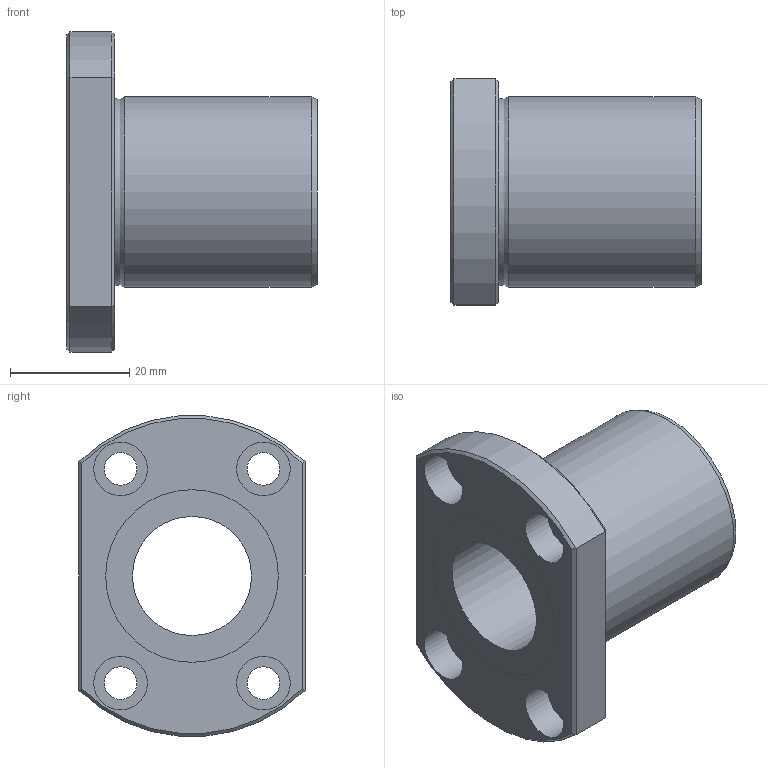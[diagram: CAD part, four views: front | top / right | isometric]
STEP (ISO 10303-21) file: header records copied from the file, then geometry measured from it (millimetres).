
FILE_DESCRIPTION((''),'2;1');
FILE_NAME('D:\製品 (図面)\カタログ用3D\リニアベアリング関連\STEP形式\LFT\LFT20B.stp','2010-06-04T09:17:45',('Tsuchiya'),(''),'Autodesk Inventor 10','Autodesk Inventor 10','');
FILE_SCHEMA(('AUTOMOTIVE_DESIGN { 1 0 10303 214 1 1 1 1 }'));
Length unit declared in the file: millimetre
Products named in the file (1): LFT20B
Bounding box: 42 x 38 x 53.8 mm (x, y, z)
Volume: 27298.2 mm3; surface area: 10951.2 mm2
Topology: 1 solids, 1 shells, 35 faces, 68 edges, 42 vertices
Faces by surface type: plane 15, cylinder 14, cone 4, torus 1, bspline 1
Full cylindrical faces by diameter (mm): 5.5 x4, 9 x4, 20 x1, 29 x2, 32 x1
Entity records: 935 total; most frequent: CARTESIAN_POINT 218, DIRECTION 150, ORIENTED_EDGE 108, AXIS2_PLACEMENT_3D 69, EDGE_LOOP 66, EDGE_CURVE 54, VERTEX_POINT 42, FACE_OUTER_BOUND 35
